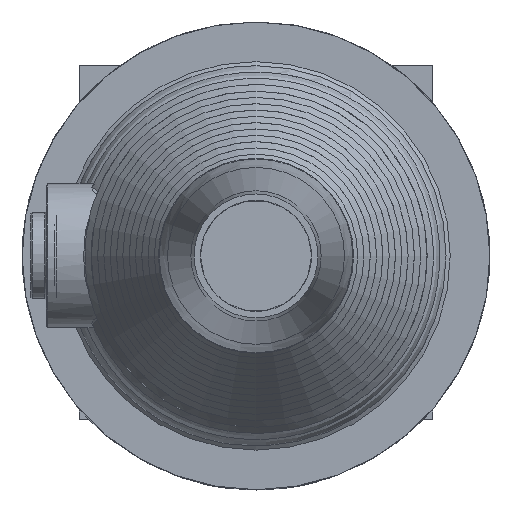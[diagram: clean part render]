
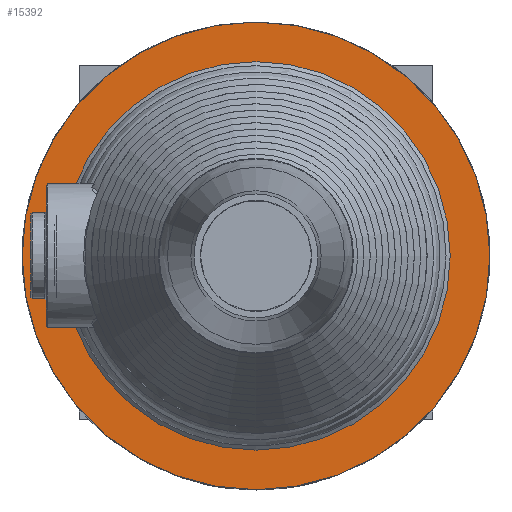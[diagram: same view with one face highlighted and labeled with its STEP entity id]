
A CAD part, left-side view. The second image highlights one B-rep face of the part: STEP entity #15392.
In plain terms, the highlighted conical face has half-angle 90 degrees and reference radius 84.659 mm.
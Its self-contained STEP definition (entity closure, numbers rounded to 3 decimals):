
#27=CONICAL_SURFACE('',#16201,84.659,90.);
#3549=FACE_BOUND('',#5407,.T.);
#4394=FACE_OUTER_BOUND('',#5406,.T.);
#5406=EDGE_LOOP('',(#13719));
#5407=EDGE_LOOP('',(#13720));
#5971=CIRCLE('',#16202,76.819);
#5972=CIRCLE('',#16203,92.5);
#7461=VERTEX_POINT('',#36844);
#7462=VERTEX_POINT('',#36846);
#9587=EDGE_CURVE('',#7461,#7461,#5971,.T.);
#9588=EDGE_CURVE('',#7462,#7462,#5972,.T.);
#13719=ORIENTED_EDGE('',*,*,#9587,.T.);
#13720=ORIENTED_EDGE('',*,*,#9588,.F.);
#15392=ADVANCED_FACE('',(#4394,#3549),#27,.F.);
#16201=AXIS2_PLACEMENT_3D('',#36843,#18675,#18676);
#16202=AXIS2_PLACEMENT_3D('',#36845,#18677,#18678);
#16203=AXIS2_PLACEMENT_3D('',#36847,#18679,#18680);
#18675=DIRECTION('center_axis',(-1.,0.,0.));
#18676=DIRECTION('ref_axis',(0.,-1.,0.));
#18677=DIRECTION('center_axis',(1.,0.,0.));
#18678=DIRECTION('ref_axis',(0.,0.,
-1.));
#18679=DIRECTION('center_axis',(1.,0.,0.));
#18680=DIRECTION('ref_axis',(0.,0.,
-1.));
#36843=CARTESIAN_POINT('Origin',(-314.652,0.,
0.));
#36844=CARTESIAN_POINT('',(-314.652,-76.819,0.));
#36845=CARTESIAN_POINT('Origin',(-314.652,0.,
0.));
#36846=CARTESIAN_POINT('',(-314.652,-92.5,0.));
#36847=CARTESIAN_POINT('Origin',(-314.652,0.,
0.));
